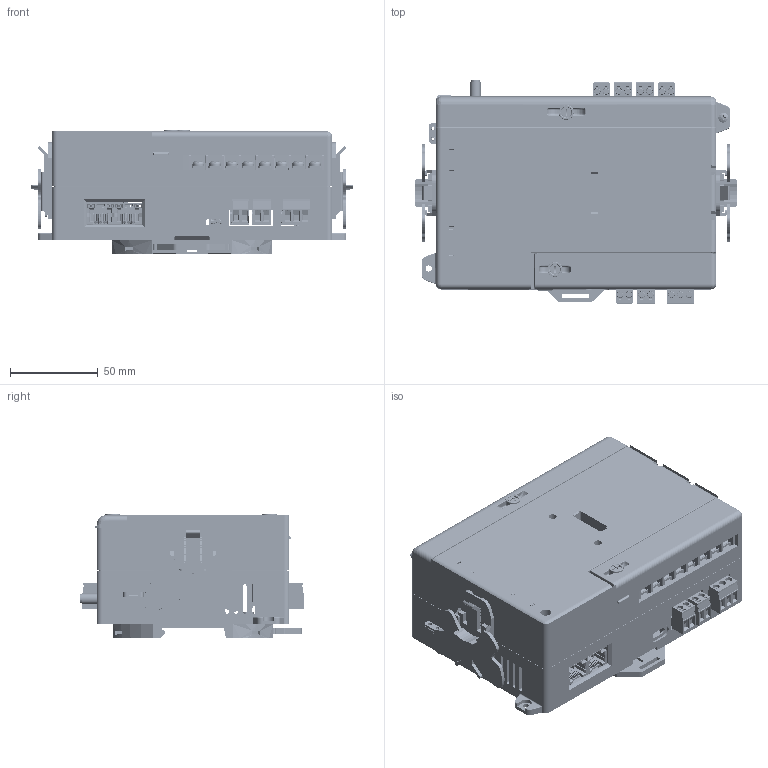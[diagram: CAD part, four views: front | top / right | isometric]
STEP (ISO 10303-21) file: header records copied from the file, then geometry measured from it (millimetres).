
FILE_DESCRIPTION(/* description */ (''),/* implementation_level */ '2;1');
FILE_NAME(/* name */ 'Acuvim 3-M customer version.step',/* time_stamp */ '2025-11-20T09:27:14-05:00',/* author */ (''),/* organization */ (''),/* preprocessor_version */ 'ST-DEVELOPER v20.1',/* originating_system */ 'Autodesk Translation Framework v14.17.0.0',/* authorisation */ '');
FILE_SCHEMA (('AUTOMOTIVE_DESIGN { 1 0 10303 214 3 1 1 }'));
Products named in the file (24): ACUVIM-S000_ASM; AVS-01-P0001; AVS-02-P0001; AVS-03-P0001; AVS-04-P0001; 00; AVS-05-P0001; KZ_ASM; KZ-1; 200; AVS-08-P0001; 2EDGK-5_08-03P-14-1000A_H_-T0; 2EDGK-5_08-02P-1000; 000_1; 123456; 2EDGKA-5_08-05P-1Y-3000AH; 2EDGKA-5_08-07P-1Y-3000AH; ASM0001_ASM; KZ-1_MIR; 2_MIR00; M3X14; Component43; PCB318-2_ASM; _200
Assembly tree (32 placements, depth 3):
  ACUVIM-S000_ASM
    AVS-01-P0001
    AVS-02-P0001
    AVS-03-P0001
    AVS-04-P0001
    00
    AVS-05-P0001
    KZ_ASM
      KZ-1
      200
    AVS-08-P0001
    2EDGK-5_08-02P-1000  x6
    2EDGK-5_08-03P-14-1000A_H_-T0
    000_1  x3
    123456  x2
    2EDGKA-5_08-05P-1Y-3000AH
    2EDGKA-5_08-07P-1Y-3000AH
    ASM0001_ASM
      KZ-1_MIR
      2_MIR00
    PCB318-2_ASM  x2
      _200
    M3X14
    Component43
Bounding box: 184.2 x 127.8 x 71.2 mm (x, y, z)
Volume: 221846.8 mm3; surface area: 251718.6 mm2
Topology: 29 solids, 132 shells, 12707 faces, 35328 edges, 22893 vertices
Faces by surface type: plane 8902, cylinder 2386, bspline 788, torus 412, cone 185, sphere 34
Full cylindrical faces by diameter (mm): 0.457 x2, 1 x26, 1.4 x15, 1.5 x10, 2 x4, 2.035 x1, 2.3 x3, 2.4 x2, 2.5 x8, 2.6 x2, 2.7 x1, 2.8 x10, 3 x17, 3.5 x6, 3.783 x12, 3.95 x27, 4 x12, 4.3 x2, 4.5 x2, 4.993 x1, 5 x4, 5.1 x3, 5.3 x1, 5.6 x3, 6 x6, 6.35 x1, 6.5 x8, 6.7 x8, 7 x1, 8.5 x3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
Entity records: 308901 total; most frequent: CARTESIAN_POINT 82973, ORIENTED_EDGE 48919, DIRECTION 44007, EDGE_CURVE 24505, LINE 18193, VECTOR 18193, VERTEX_POINT 15846, AXIS2_PLACEMENT_3D 12907
